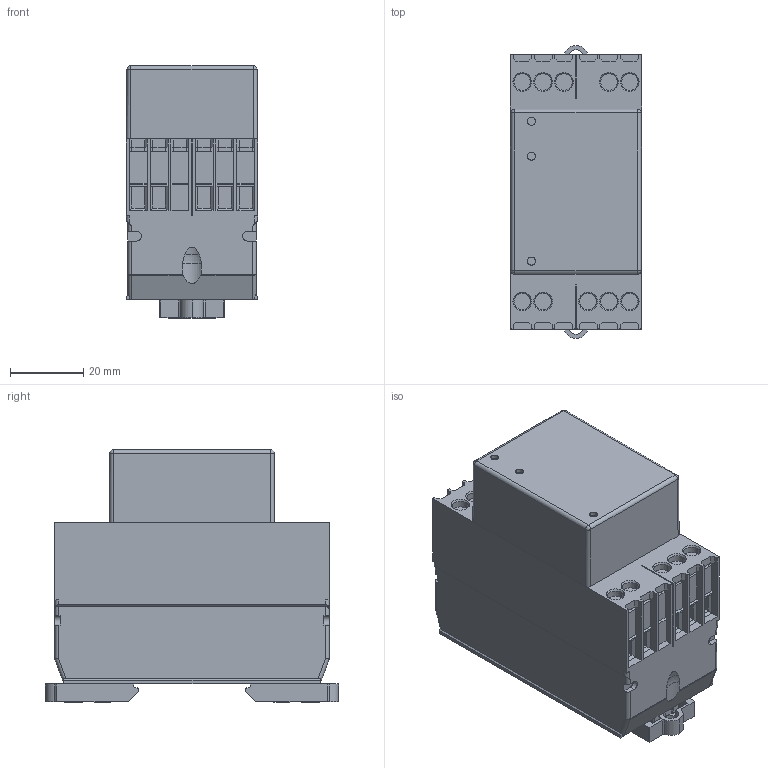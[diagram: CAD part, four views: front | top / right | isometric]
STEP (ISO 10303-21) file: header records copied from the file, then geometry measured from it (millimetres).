
FILE_DESCRIPTION (( 'STEP AP214' ), '1' );
FILE_NAME ('AL5.STEP', '2024-04-03T13:42:44', ( '' ), ( '' ), 'SwSTEP 2.0', 'SolidWorks 2022', '' );
FILE_SCHEMA (( 'AUTOMOTIVE_DESIGN' ));
Length unit declared in the file: millimetre
Products named in the file (1): AL5
Bounding box: 35.9 x 80.11 x 69 mm (x, y, z)
Volume: 145751 mm3; surface area: 25138.6 mm2
Topology: 1 solids, 1 shells, 749 faces, 2020 edges, 1254 vertices
Faces by surface type: plane 497, cylinder 182, sphere 38, cone 20, torus 12
Entity records: 31217 total; most frequent: CARTESIAN_POINT 4330, ORIENTED_EDGE 4004, DIRECTION 3740, EDGE_CURVE 2002, VECTOR 1572, LINE 1572, VERTEX_POINT 1254, AXIS2_PLACEMENT_3D 1084
